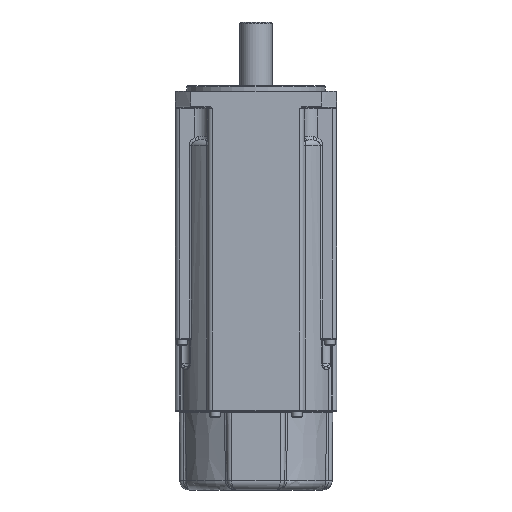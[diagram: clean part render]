
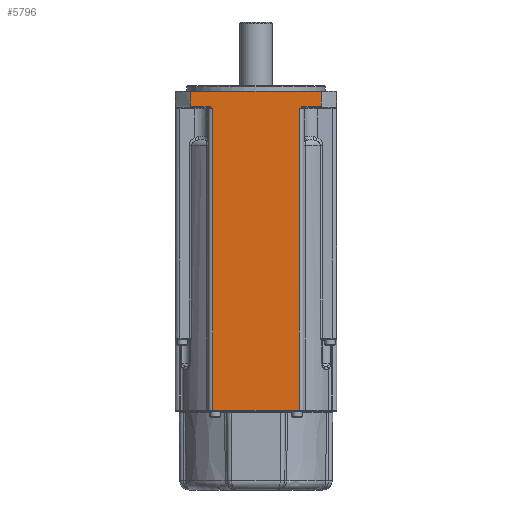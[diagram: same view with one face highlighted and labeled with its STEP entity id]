
A CAD part, front view. The second image highlights one B-rep face of the part: STEP entity #5796.
In plain terms, the highlighted planar face has unit normal (0, -1, 0).
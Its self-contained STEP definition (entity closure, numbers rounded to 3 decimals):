
#5316 = EDGE_CURVE ( 'NONE', #5614, #5606, #22960, .T. ) ;
#5351 = VERTEX_POINT ( 'NONE', #23140 ) ;
#5427 = EDGE_CURVE ( 'NONE', #5428, #5550, #25978, .T. ) ;
#5428 = VERTEX_POINT ( 'NONE', #25974 ) ;
#5442 = VERTEX_POINT ( 'NONE', #25904 ) ;
#5444 = EDGE_CURVE ( 'NONE', #5351, #5442, #25927, .T. ) ;
#5479 = VERTEX_POINT ( 'NONE', #23785 ) ;
#5550 = VERTEX_POINT ( 'NONE', #24024 ) ;
#5592 = EDGE_CURVE ( 'NONE', #5479, #5428, #24221, .T. ) ;
#5597 = EDGE_CURVE ( 'NONE', #5598, #5479, #24289, .T. ) ;
#5598 = VERTEX_POINT ( 'NONE', #24285 ) ;
#5605 = EDGE_CURVE ( 'NONE', #5606, #5351, #24199, .T. ) ;
#5606 = VERTEX_POINT ( 'NONE', #24198 ) ;
#5614 = VERTEX_POINT ( 'NONE', #24243 ) ;
#5796 = ADVANCED_FACE ( 'NONE', ( #24565 ), #24564, .T. ) ;
#5797 = ORIENTED_EDGE ( 'NONE', *, *, #5444, .T. ) ;
#5798 = ORIENTED_EDGE ( 'NONE', *, *, #5799, .T. ) ;
#5799 = EDGE_CURVE ( 'NONE', #5442, #5598, #24562, .T. ) ;
#5800 = ORIENTED_EDGE ( 'NONE', *, *, #5605, .T. ) ;
#5808 = ORIENTED_EDGE ( 'NONE', *, *, #5597, .T. ) ;
#5809 = ORIENTED_EDGE ( 'NONE', *, *, #5592, .T. ) ;
#5810 = ORIENTED_EDGE ( 'NONE', *, *, #5427, .T. ) ;
#5811 = ORIENTED_EDGE ( 'NONE', *, *, #5820, .F. ) ;
#5818 = VERTEX_POINT ( 'NONE', #24788 ) ;
#5820 = EDGE_CURVE ( 'NONE', #5818, #5550, #24698, .T. ) ;
#5824 = EDGE_LOOP ( 'NONE', ( #5797, #5798, #5808, #5809, #5810, #5811, #5825, #5828, #5830, #5800 ) ) ;
#5825 = ORIENTED_EDGE ( 'NONE', *, *, #5826, .F. ) ;
#5826 = EDGE_CURVE ( 'NONE', #5827, #5818, #24694, .T. ) ;
#5827 = VERTEX_POINT ( 'NONE', #24690 ) ;
#5828 = ORIENTED_EDGE ( 'NONE', *, *, #5829, .F. ) ;
#5829 = EDGE_CURVE ( 'NONE', #5614, #5827, #24786, .T. ) ;
#5830 = ORIENTED_EDGE ( 'NONE', *, *, #5316, .T. ) ;
#22957 = DIRECTION ( 'NONE',  ( 1., 0., 0. ) ) ;
#22958 = VECTOR ( 'NONE', #22957, 1000. ) ;
#22959 = CARTESIAN_POINT ( 'NONE',  ( -18.71, -35., -7.304 ) ) ;
#22960 = LINE ( 'NONE', #22959, #22958 ) ;
#23140 = CARTESIAN_POINT ( 'NONE',  ( -18.71, -35., -8.296 ) ) ;
#23785 = CARTESIAN_POINT ( 'NONE',  ( 18.71, -35., -8.296 ) ) ;
#24024 = CARTESIAN_POINT ( 'NONE',  ( 28.284, -35., -7.304 ) ) ;
#24198 = CARTESIAN_POINT ( 'NONE',  ( -20.703, -35., -7.304 ) ) ;
#24199 = B_SPLINE_CURVE_WITH_KNOTS ( 'NONE', 3,
 ( #24260, #24259, #24258, #24257, #24256, #24255, #24254, #24253 ),
 .UNSPECIFIED., .F., .F.,
 ( 4, 2, 2, 4 ),
 ( 0., 0.001, 0.001, 0.002 ),
 .UNSPECIFIED. ) ;
#24221 = B_SPLINE_CURVE_WITH_KNOTS ( 'NONE', 3,
 ( #24294, #24293, #24292, #24291, #24316, #24315, #24314, #24313 ),
 .UNSPECIFIED., .F., .F.,
 ( 4, 2, 2, 4 ),
 ( 0., 0.001, 0.002, 0.002 ),
 .UNSPECIFIED. ) ;
#24243 = CARTESIAN_POINT ( 'NONE',  ( -28.284, -35., -7.304 ) ) ;
#24253 = CARTESIAN_POINT ( 'NONE',  ( -18.71, -35., -8.296 ) ) ;
#24254 = CARTESIAN_POINT ( 'NONE',  ( -19.003, -35., -8.056 ) ) ;
#24255 = CARTESIAN_POINT ( 'NONE',  ( -19.301, -35., -7.815 ) ) ;
#24256 = CARTESIAN_POINT ( 'NONE',  ( -19.792, -35., -7.534 ) ) ;
#24257 = CARTESIAN_POINT ( 'NONE',  ( -19.962, -35., -7.454 ) ) ;
#24258 = CARTESIAN_POINT ( 'NONE',  ( -20.324, -35., -7.339 ) ) ;
#24259 = CARTESIAN_POINT ( 'NONE',  ( -20.512, -35., -7.304 ) ) ;
#24260 = CARTESIAN_POINT ( 'NONE',  ( -20.703, -35., -7.304 ) ) ;
#24285 = CARTESIAN_POINT ( 'NONE',  ( 18.71, -35., -138.717 ) ) ;
#24286 = DIRECTION ( 'NONE',  ( 0., 0., 1. ) ) ;
#24287 = VECTOR ( 'NONE', #24286, 1000. ) ;
#24288 = CARTESIAN_POINT ( 'NONE',  ( 18.71, -35., -7.8 ) ) ;
#24289 = LINE ( 'NONE', #24288, #24287 ) ;
#24291 = CARTESIAN_POINT ( 'NONE',  ( 19.792, -35., -7.534 ) ) ;
#24292 = CARTESIAN_POINT ( 'NONE',  ( 19.301, -35., -7.815 ) ) ;
#24293 = CARTESIAN_POINT ( 'NONE',  ( 19.003, -35., -8.056 ) ) ;
#24294 = CARTESIAN_POINT ( 'NONE',  ( 18.71, -35., -8.296 ) ) ;
#24313 = CARTESIAN_POINT ( 'NONE',  ( 20.703, -35., -7.304 ) ) ;
#24314 = CARTESIAN_POINT ( 'NONE',  ( 20.512, -35., -7.304 ) ) ;
#24315 = CARTESIAN_POINT ( 'NONE',  ( 20.324, -35., -7.339 ) ) ;
#24316 = CARTESIAN_POINT ( 'NONE',  ( 19.962, -35., -7.454 ) ) ;
#24555 = DIRECTION ( 'NONE',  ( 1., 0., 0. ) ) ;
#24556 = VECTOR ( 'NONE', #24555, 1000. ) ;
#24557 = CARTESIAN_POINT ( 'NONE',  ( -35., -35., -138.717 ) ) ;
#24559 = DIRECTION ( 'NONE',  ( 1., 0., 0. ) ) ;
#24560 = DIRECTION ( 'NONE',  ( 0., -1., 0. ) ) ;
#24561 = CARTESIAN_POINT ( 'NONE',  ( -35., -35., -7.8 ) ) ;
#24562 = LINE ( 'NONE', #24557, #24556 ) ;
#24563 = AXIS2_PLACEMENT_3D ( 'NONE', #24561, #24560, #24559 ) ;
#24564 = PLANE ( 'NONE',  #24563 ) ;
#24565 = FACE_OUTER_BOUND ( 'NONE', #5824, .T. ) ;
#24690 = CARTESIAN_POINT ( 'NONE',  ( -28.284, -35., -0.917 ) ) ;
#24691 = DIRECTION ( 'NONE',  ( 1., 0., 0. ) ) ;
#24692 = VECTOR ( 'NONE', #24691, 1000. ) ;
#24693 = CARTESIAN_POINT ( 'NONE',  ( -35., -35., -0.917 ) ) ;
#24694 = LINE ( 'NONE', #24693, #24692 ) ;
#24695 = DIRECTION ( 'NONE',  ( 0., 0., -1. ) ) ;
#24696 = VECTOR ( 'NONE', #24695, 1000. ) ;
#24697 = CARTESIAN_POINT ( 'NONE',  ( 28.284, -35., -85.72 ) ) ;
#24698 = LINE ( 'NONE', #24697, #24696 ) ;
#24783 = DIRECTION ( 'NONE',  ( 0., 0., 1. ) ) ;
#24784 = VECTOR ( 'NONE', #24783, 1000. ) ;
#24785 = CARTESIAN_POINT ( 'NONE',  ( -28.284, -35., -85.72 ) ) ;
#24786 = LINE ( 'NONE', #24785, #24784 ) ;
#24788 = CARTESIAN_POINT ( 'NONE',  ( 28.284, -35., -0.917 ) ) ;
#25904 = CARTESIAN_POINT ( 'NONE',  ( -18.71, -35., -138.717 ) ) ;
#25924 = DIRECTION ( 'NONE',  ( 0., 0., -1. ) ) ;
#25925 = VECTOR ( 'NONE', #25924, 1000. ) ;
#25926 = CARTESIAN_POINT ( 'NONE',  ( -18.71, -35., -139.217 ) ) ;
#25927 = LINE ( 'NONE', #25926, #25925 ) ;
#25974 = CARTESIAN_POINT ( 'NONE',  ( 20.703, -35., -7.304 ) ) ;
#25975 = DIRECTION ( 'NONE',  ( 1., 0., 0. ) ) ;
#25976 = VECTOR ( 'NONE', #25975, 1000. ) ;
#25977 = CARTESIAN_POINT ( 'NONE',  ( 31.225, -35., -7.304 ) ) ;
#25978 = LINE ( 'NONE', #25977, #25976 ) ;
